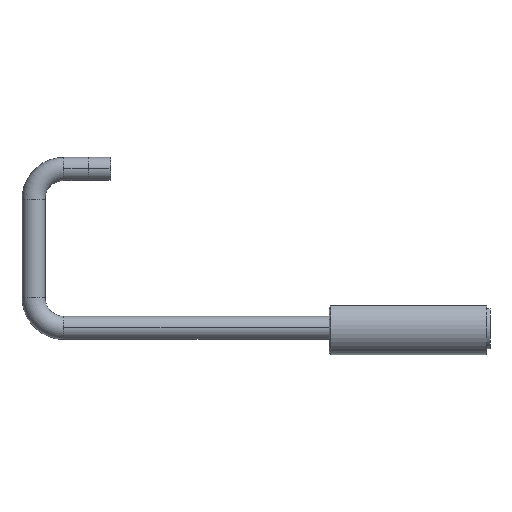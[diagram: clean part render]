
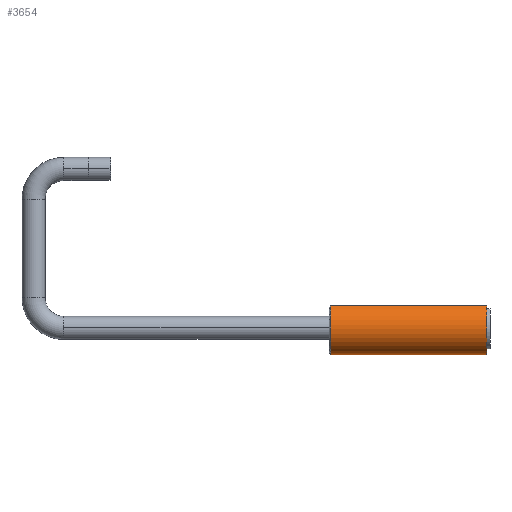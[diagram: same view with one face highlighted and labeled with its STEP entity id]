
A CAD part, left-side view. The second image highlights one B-rep face of the part: STEP entity #3654.
In plain terms, the highlighted cylindrical face has radius 22 mm (diameter 44 mm), a partial arc.
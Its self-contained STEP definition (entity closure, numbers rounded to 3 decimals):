
#244 = CARTESIAN_POINT ( 'NONE',  ( 0., 128.75, -22. ) ) ;
#247 = CYLINDRICAL_SURFACE ( 'NONE', #9606, 22. ) ;
#306 = DIRECTION ( 'NONE',  ( 0., 0., 1. ) ) ;
#395 = DIRECTION ( 'NONE',  ( 0., -1., 0. ) ) ;
#1074 = DIRECTION ( 'NONE',  ( 0., -1., 0. ) ) ;
#1195 = ORIENTED_EDGE ( 'NONE', *, *, #3264, .T. ) ;
#1371 = CARTESIAN_POINT ( 'NONE',  ( 0., 0., -22. ) ) ;
#1434 = AXIS2_PLACEMENT_3D ( 'NONE', #2341, #8581, #4754 ) ;
#2041 = CARTESIAN_POINT ( 'NONE',  ( 0., 130., 0. ) ) ;
#2299 = ORIENTED_EDGE ( 'NONE', *, *, #7630, .T. ) ;
#2341 = CARTESIAN_POINT ( 'NONE',  ( 0., 0., 0. ) ) ;
#2490 = CARTESIAN_POINT ( 'NONE',  ( -12.5, 0., 18.104 ) ) ;
#2545 = VECTOR ( 'NONE', #3748, 1000. ) ;
#2980 = VERTEX_POINT ( 'NONE', #3310 ) ;
#3264 = EDGE_CURVE ( 'NONE', #2980, #8111, #3734, .T. ) ;
#3310 = CARTESIAN_POINT ( 'NONE',  ( -12.5, 128.75, 18.104 ) ) ;
#3581 = EDGE_CURVE ( 'NONE', #8111, #6733, #3850, .T. ) ;
#3654 = ADVANCED_FACE ( 'NONE', ( #4826 ), #247, .T. ) ;
#3734 = CIRCLE ( 'NONE', #6428, 22. ) ;
#3748 = DIRECTION ( 'NONE',  ( 0., 1., 0. ) ) ;
#3850 = LINE ( 'NONE', #6143, #9131 ) ;
#4038 = DIRECTION ( 'NONE',  ( 0., 0., -1. ) ) ;
#4732 = DIRECTION ( 'NONE',  ( 0., -1., 0. ) ) ;
#4754 = DIRECTION ( 'NONE',  ( 0., 0., 1. ) ) ;
#4826 = FACE_OUTER_BOUND ( 'NONE', #9504, .T. ) ;
#5029 = VERTEX_POINT ( 'NONE', #2490 ) ;
#5546 = CARTESIAN_POINT ( 'NONE',  ( 0., 128.75, 0. ) ) ;
#5925 = ORIENTED_EDGE ( 'NONE', *, *, #3581, .T. ) ;
#5970 = ORIENTED_EDGE ( 'NONE', *, *, #7978, .T. ) ;
#6143 = CARTESIAN_POINT ( 'NONE',  ( 0., 130., -22. ) ) ;
#6428 = AXIS2_PLACEMENT_3D ( 'NONE', #5546, #395, #306 ) ;
#6733 = VERTEX_POINT ( 'NONE', #1371 ) ;
#6780 = LINE ( 'NONE', #7660, #2545 ) ;
#7630 = EDGE_CURVE ( 'NONE', #6733, #5029, #8714, .T. ) ;
#7660 = CARTESIAN_POINT ( 'NONE',  ( -12.5, 130., 18.104 ) ) ;
#7978 = EDGE_CURVE ( 'NONE', #5029, #2980, #6780, .T. ) ;
#8111 = VERTEX_POINT ( 'NONE', #244 ) ;
#8581 = DIRECTION ( 'NONE',  ( 0., 1., 0. ) ) ;
#8714 = CIRCLE ( 'NONE', #1434, 22. ) ;
#9131 = VECTOR ( 'NONE', #4732, 1000. ) ;
#9504 = EDGE_LOOP ( 'NONE', ( #1195, #5925, #2299, #5970 ) ) ;
#9606 = AXIS2_PLACEMENT_3D ( 'NONE', #2041, #1074, #4038 ) ;
